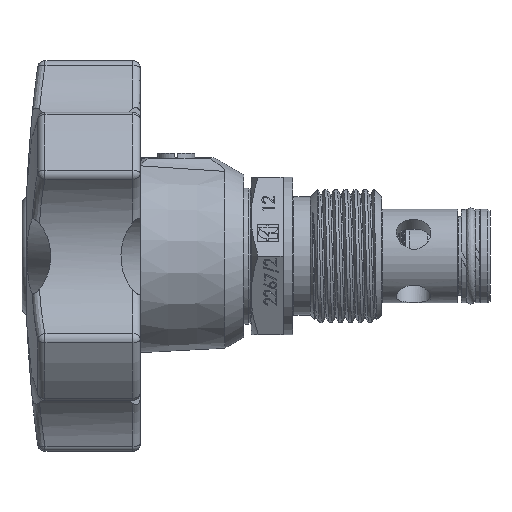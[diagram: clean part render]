
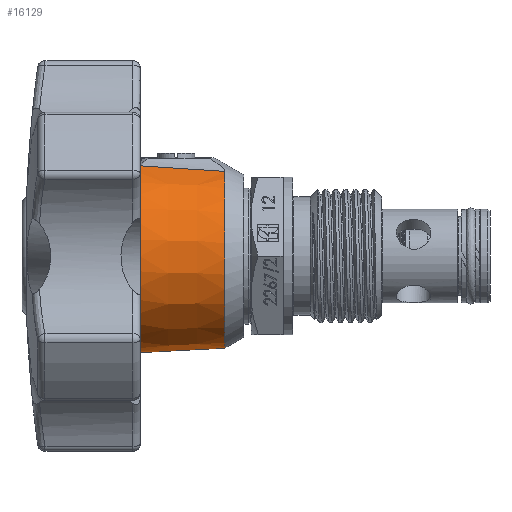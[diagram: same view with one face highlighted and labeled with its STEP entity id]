
A CAD part, left-side view. The second image highlights one B-rep face of the part: STEP entity #16129.
In plain terms, the highlighted conical face has half-angle 3 degrees and reference radius 18.5 mm.
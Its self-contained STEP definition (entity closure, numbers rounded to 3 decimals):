
#440 = ORIENTED_EDGE ( 'NONE', *, *, #12659, .T. ) ;
#853 = CARTESIAN_POINT ( 'NONE',  ( 0., 0., 23. ) ) ;
#874 = CARTESIAN_POINT ( 'NONE',  ( 0., 19.601, 23. ) ) ;
#1057 = DIRECTION ( 'NONE',  ( 0., 0., 1. ) ) ;
#1186 = CARTESIAN_POINT ( 'NONE',  ( 0., 0., 23. ) ) ;
#1236 = CARTESIAN_POINT ( 'NONE',  ( 0., 0., 23. ) ) ;
#1684 = CARTESIAN_POINT ( 'NONE',  ( 18.128, -7.053, 25.863 ) ) ;
#1774 = CARTESIAN_POINT ( 'NONE',  ( -18.641, 6.057, 23. ) ) ;
#2051 = CARTESIAN_POINT ( 'NONE',  ( 17.385, -7.286, 37.324 ) ) ;
#2865 = CARTESIAN_POINT ( 'NONE',  ( 17.385, 7.286, 37.324 ) ) ;
#3324 = DIRECTION ( 'NONE',  ( 0., 0., -1. ) ) ;
#3388 = EDGE_CURVE ( 'NONE', #32907, #23530, #15003, .T. ) ;
#3896 = DIRECTION ( 'NONE',  ( -1., 0., 0. ) ) ;
#4237 = DIRECTION ( 'NONE',  ( 0., 0., 1. ) ) ;
#6520 = DIRECTION ( 'NONE',  ( 0., 0., -1. ) ) ;
#6629 = DIRECTION ( 'NONE',  ( 0., 0., 1. ) ) ;
#6667 = ORIENTED_EDGE ( 'NONE', *, *, #31749, .T. ) ;
#6960 = CARTESIAN_POINT ( 'NONE',  ( 17.936, -7.128, 28.727 ) ) ;
#7428 = DIRECTION ( 'NONE',  ( 1., 0., 0. ) ) ;
#7837 = VERTEX_POINT ( 'NONE', #18552 ) ;
#8541 = B_SPLINE_CURVE_WITH_KNOTS ( 'NONE', 3,
 ( #10930, #2865, #14103, #25477, #28480, #11299 ),
 .UNSPECIFIED., .F., .F.,
 ( 4, 2, 4 ),
 ( 0.004, 0.012, 0.021 ),
 .UNSPECIFIED. ) ;
#10495 = CARTESIAN_POINT ( 'NONE',  ( 18.328, -6.949, 23. ) ) ;
#10524 = CIRCLE ( 'NONE', #23655, 18.7 ) ;
#10930 = CARTESIAN_POINT ( 'NONE',  ( 17.21, 7.314, 40.19 ) ) ;
#11247 = ORIENTED_EDGE ( 'NONE', *, *, #27472, .T. ) ;
#11299 = CARTESIAN_POINT ( 'NONE',  ( 18.328, 6.949, 23. ) ) ;
#12659 = EDGE_CURVE ( 'NONE', #23530, #34186, #21315, .T. ) ;
#13273 = EDGE_CURVE ( 'NONE', #32530, #32814, #17886, .T. ) ;
#13676 = ORIENTED_EDGE ( 'NONE', *, *, #3388, .T. ) ;
#14103 = CARTESIAN_POINT ( 'NONE',  ( 17.565, 7.245, 34.458 ) ) ;
#15003 = CIRCLE ( 'NONE', #30518, 19.601 ) ;
#15068 = DIRECTION ( 'NONE',  ( 0., 0., 1. ) ) ;
#15283 = DIRECTION ( 'NONE',  ( 1., 0., 0. ) ) ;
#15440 = CONICAL_SURFACE ( 'NONE', #36910, 18.5, 0.052 ) ;
#16093 = CARTESIAN_POINT ( 'NONE',  ( 17.565, -7.245, 34.458 ) ) ;
#16129 = ADVANCED_FACE ( 'NONE', ( #31732 ), #15440, .T. ) ;
#17370 = VERTEX_POINT ( 'NONE', #34858 ) ;
#17467 = EDGE_CURVE ( 'NONE', #22591, #7837, #34621, .T. ) ;
#17548 = CARTESIAN_POINT ( 'NONE',  ( 0., 0., 44. ) ) ;
#17886 = B_SPLINE_CURVE_WITH_KNOTS ( 'NONE', 3,
 ( #10495, #1684, #6960, #16093, #2051, #18358 ),
 .UNSPECIFIED., .F., .F.,
 ( 4, 2, 4 ),
 ( 0., 0.009, 0.017 ),
 .UNSPECIFIED. ) ;
#17908 = CARTESIAN_POINT ( 'NONE',  ( 0., 0., 23. ) ) ;
#18039 = DIRECTION ( 'NONE',  ( 1., 0., 0. ) ) ;
#18358 = CARTESIAN_POINT ( 'NONE',  ( 17.21, -7.314, 40.19 ) ) ;
#18365 = AXIS2_PLACEMENT_3D ( 'NONE', #853, #15068, #34134 ) ;
#18552 = CARTESIAN_POINT ( 'NONE',  ( 11.521, -15.857, 23. ) ) ;
#18821 = CARTESIAN_POINT ( 'NONE',  ( 0., 0., 23. ) ) ;
#21315 = CIRCLE ( 'NONE', #18365, 19.601 ) ;
#22591 = VERTEX_POINT ( 'NONE', #35951 ) ;
#22705 = AXIS2_PLACEMENT_3D ( 'NONE', #1236, #4237, #27390 ) ;
#23530 = VERTEX_POINT ( 'NONE', #874 ) ;
#23655 = AXIS2_PLACEMENT_3D ( 'NONE', #23717, #6520, #3896 ) ;
#23717 = CARTESIAN_POINT ( 'NONE',  ( 0., 0., 40.19 ) ) ;
#23745 = EDGE_CURVE ( 'NONE', #7837, #32530, #26314, .T. ) ;
#23754 = EDGE_CURVE ( 'NONE', #34186, #22591, #26901, .T. ) ;
#25246 = ORIENTED_EDGE ( 'NONE', *, *, #23754, .T. ) ;
#25477 = CARTESIAN_POINT ( 'NONE',  ( 17.936, 7.128, 28.727 ) ) ;
#26314 = CIRCLE ( 'NONE', #22705, 19.601 ) ;
#26697 = CARTESIAN_POINT ( 'NONE',  ( 17.21, -7.314, 40.19 ) ) ;
#26854 = DIRECTION ( 'NONE',  ( 1., 0., 0. ) ) ;
#26901 = CIRCLE ( 'NONE', #29275, 19.601 ) ;
#27243 = CARTESIAN_POINT ( 'NONE',  ( 18.328, 6.949, 23. ) ) ;
#27292 = CARTESIAN_POINT ( 'NONE',  ( 18.328, -6.949, 23. ) ) ;
#27390 = DIRECTION ( 'NONE',  ( 1., 0., 0. ) ) ;
#27472 = EDGE_CURVE ( 'NONE', #17370, #32907, #8541, .T. ) ;
#28006 = AXIS2_PLACEMENT_3D ( 'NONE', #1186, #6629, #18039 ) ;
#28480 = CARTESIAN_POINT ( 'NONE',  ( 18.128, 7.053, 25.863 ) ) ;
#29275 = AXIS2_PLACEMENT_3D ( 'NONE', #18821, #1057, #7428 ) ;
#30162 = ORIENTED_EDGE ( 'NONE', *, *, #17467, .T. ) ;
#30518 = AXIS2_PLACEMENT_3D ( 'NONE', #17908, #34724, #15283 ) ;
#31732 = FACE_OUTER_BOUND ( 'NONE', #36795, .T. ) ;
#31749 = EDGE_CURVE ( 'NONE', #32814, #17370, #10524, .T. ) ;
#31984 = ORIENTED_EDGE ( 'NONE', *, *, #23745, .T. ) ;
#32530 = VERTEX_POINT ( 'NONE', #27292 ) ;
#32814 = VERTEX_POINT ( 'NONE', #26697 ) ;
#32907 = VERTEX_POINT ( 'NONE', #27243 ) ;
#34134 = DIRECTION ( 'NONE',  ( 1., 0., 0. ) ) ;
#34186 = VERTEX_POINT ( 'NONE', #1774 ) ;
#34621 = CIRCLE ( 'NONE', #28006, 19.601 ) ;
#34724 = DIRECTION ( 'NONE',  ( 0., 0., 1. ) ) ;
#34858 = CARTESIAN_POINT ( 'NONE',  ( 17.21, 7.314, 40.19 ) ) ;
#35670 = ORIENTED_EDGE ( 'NONE', *, *, #13273, .T. ) ;
#35951 = CARTESIAN_POINT ( 'NONE',  ( -11.521, -15.857, 23. ) ) ;
#36795 = EDGE_LOOP ( 'NONE', ( #35670, #6667, #11247, #13676, #440, #25246, #30162, #31984 ) ) ;
#36910 = AXIS2_PLACEMENT_3D ( 'NONE', #17548, #3324, #26854 ) ;
